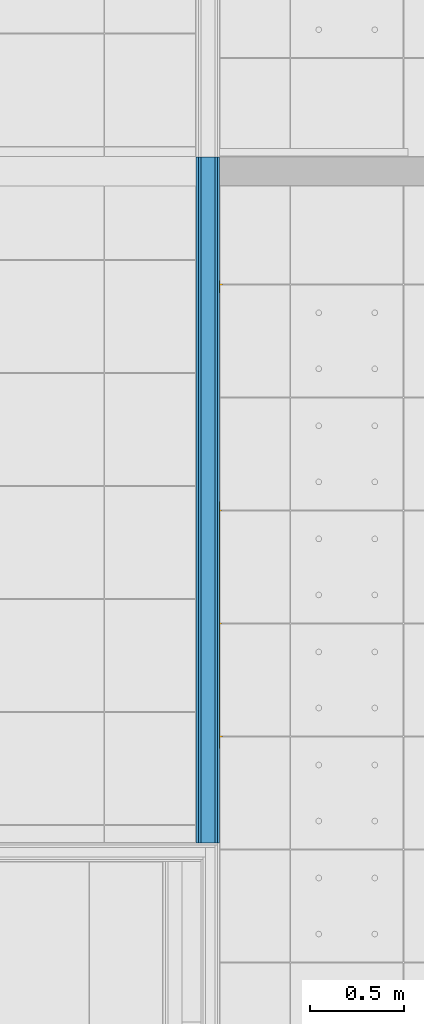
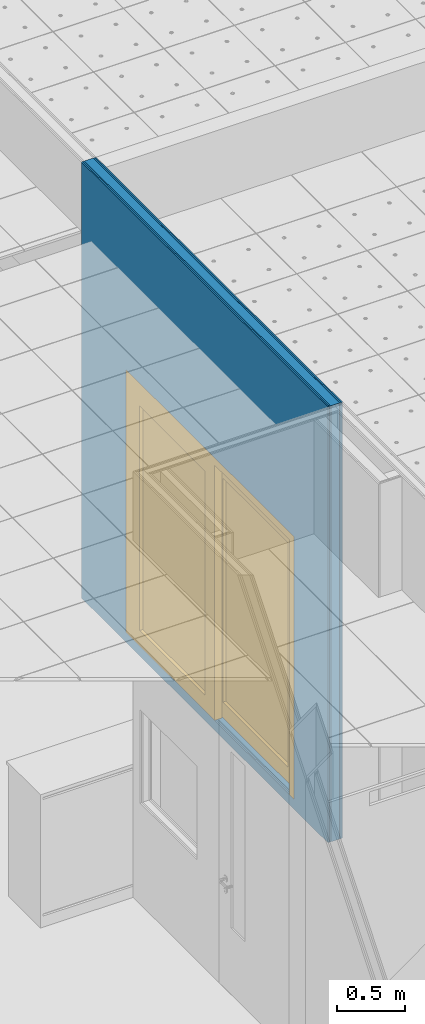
# One storey, part 17 of 321: 5 building element parts, 1 door, 1 opening, 1 element without a shape of its own.
"""IFC2X3 building model written with IfcOpenShell, lengths in millimetres."""

from ifc_helpers import new_model, entity, si_unit, converted_unit, derived_unit, money_unit, direction, frame, origin_with_axes, place, context, subcontext, project, spatial, open_shell, faceted_brep, surface_model, source, transform, mapped, material, type_object, type_shapes, element, fill, aggregate, save


model = new_model("IFC2X3")

# Units and contexts
model_context = context("Model", 3, precision=0.01, world=origin_with_axes(), true_north=direction((0.0, 1.0)))
plan_context = context("Plan", 3, precision=0.01, world=origin_with_axes(), true_north=direction((0.0, 1.0)))
body_context = subcontext(model_context, "Body", "Model", "MODEL_VIEW")
ifc_project = project(units=[si_unit("LENGTHUNIT", "METRE", prefix="MILLI"), si_unit("AREAUNIT", "SQUARE_METRE"), si_unit("VOLUMEUNIT", "CUBIC_METRE"), converted_unit("PLANEANGLEUNIT", "DEGREE", entity("IfcPlaneAngleMeasure", 0.0174532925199), si_unit("PLANEANGLEUNIT", "RADIAN"), dimensions=[0, 0, 0, 0, 0, 0, 0]), money_unit("EUR"), converted_unit("TIMEUNIT", "Year", entity("IfcTimeMeasure", 31556926.0), si_unit("TIMEUNIT", "SECOND"), dimensions=[0, 0, 1, 0, 0, 0, 0]), si_unit("MASSUNIT", "GRAM", prefix="KILO"), si_unit("THERMODYNAMICTEMPERATUREUNIT", "DEGREE_CELSIUS"), si_unit("LUMINOUSINTENSITYUNIT", "LUMEN"), si_unit("ENERGYUNIT", "JOULE", prefix="MEGA"), derived_unit("THERMALCONDUCTANCEUNIT", [(si_unit("POWERUNIT", "WATT"), 1), (si_unit("LENGTHUNIT", "METRE"), -1), (si_unit("THERMODYNAMICTEMPERATUREUNIT", "KELVIN"), -1)]), derived_unit("SPECIFICHEATCAPACITYUNIT", [(si_unit("ENERGYUNIT", "JOULE"), 1), (si_unit("MASSUNIT", "GRAM", prefix="KILO"), -1), (si_unit("THERMODYNAMICTEMPERATUREUNIT", "KELVIN"), -1)]), derived_unit("MASSDENSITYUNIT", [(si_unit("MASSUNIT", "GRAM", prefix="KILO"), 1), (si_unit("VOLUMEUNIT", "CUBIC_METRE"), -1)])], contexts=[model_context, plan_context])

# Site, building, storey
site_placement = place(None, origin_with_axes())
site = spatial("IfcSite", under=ifc_project, at=site_placement, Name="Fortuinstraat Woensdrecht", CompositionType="ELEMENT")
building_placement = place(site_placement, origin_with_axes())
building = spatial("IfcBuilding", under=site, at=building_placement, Name="IKC Fortuna", CompositionType="ELEMENT")
storey_placement = place(building_placement, frame((0.0, 0.0, 4000.0), z_axis=(0.0, 0.0, 1.0), x_axis=(1.0, 0.0, 0.0)))
storey = spatial("IfcBuildingStorey", under=building, at=storey_placement, Name="01 eerste verdieping", CompositionType="ELEMENT", Elevation=4000.0)

# Door
door_style = type_object("IfcDoorStyle", Name="DSn 25", ConstructionType="NOTDEFINED", OperationType="USERDEFINED", ParameterTakesPrecedence=False, Sizeable=False)
shared_shape = source(origin_with_axes(), body_context, "Body", "SurfaceModel", [
    faceted_brep([(-1242.5, 0.0, 0.0), (-1175.5, 0.0, 0.0), (-1175.5, -139.0, 0.0), (-1242.5, -139.0, 0.0), (-1242.5, 0.0, 2300.0), (-1175.5, 0.0, 2300.0), (-1175.5, -139.0, 2300.0), (-1242.5, -139.0, 2300.0)], [[[0, 1, 2, 3]], [[0, 4, 5, 1]], [[1, 5, 6, 2]], [[3, 2, 6, 7]], [[4, 0, 3, 7]], [[5, 4, 7, 6]]]),
    faceted_brep([(1242.5, 0.0, 0.0), (1242.5, 0.0, 2300.0), (1242.5, -139.0, 2300.0), (1242.5, -139.0, 0.0), (1175.5, 0.0, 0.0), (1175.5, 0.0, 2300.0), (1175.5, -139.0, 2300.0), (1175.5, -139.0, 0.0)], [[[0, 1, 2, 3]], [[0, 4, 5, 1]], [[1, 5, 6, 2]], [[3, 2, 6, 7]], [[4, 0, 3, 7]], [[5, 4, 7, 6]]]),
    faceted_brep([(-1242.5, 0.0, 2367.0), (-1242.5, 0.0, 2300.0), (-1242.5, -139.0, 2300.0), (-1242.5, -139.0, 2367.0), (1242.5, 0.0, 2367.0), (1242.5, 0.0, 2300.0), (1175.5, 0.0, 2300.0), (-1175.5, 0.0, 2300.0), (-1175.5, -139.0, 2300.0), (1175.5, -139.0, 2300.0), (1242.5, -139.0, 2300.0), (1242.5, -139.0, 2367.0)], [[[0, 1, 2, 3]], [[0, 4, 5, 6, 7, 1]], [[1, 7, 8, 2]], [[3, 2, 8, 9, 10, 11]], [[4, 0, 3, 11]], [[5, 4, 11, 10]], [[6, 5, 10, 9]], [[7, 6, 9, 8]]]),
    faceted_brep([(1175.5, 0.0, 139.0), (1175.5, -64.5, 139.0), (1036.5, -64.5, 139.0), (1036.5, 0.0, 139.0), (1175.5, 0.0, 2161.0), (1175.5, -64.5, 2161.0), (1036.5, -64.5, 2161.0), (1036.5, 0.0, 2161.0)], [[[0, 1, 2, 3]], [[4, 5, 1, 0]], [[1, 5, 6, 2]], [[3, 2, 6, 7]], [[0, 3, 7, 4]], [[7, 6, 5, 4]]]),
    faceted_brep([(-69.5, 0.0, 139.0), (-69.5, -64.5, 139.0), (-69.5, -64.5, 2161.0), (-69.5, 0.0, 2161.0), (69.5, 0.0, 139.0), (69.5, -64.5, 139.0), (69.5, -64.5, 2161.0), (69.5, 0.0, 2161.0)], [[[0, 1, 2, 3]], [[4, 5, 1, 0]], [[1, 5, 6, 2]], [[3, 2, 6, 7]], [[0, 3, 7, 4]], [[7, 6, 5, 4]]]),
    faceted_brep([(1175.5, 0.0, 0.0), (1175.5, -64.5, 0.0), (-69.5, -64.5, 0.0), (-69.5, 0.0, 0.0), (1175.5, 0.0, 139.0), (1175.5, -64.5, 139.0), (1036.5, -64.5, 139.0), (69.5, -64.5, 139.0), (-69.5, -64.5, 139.0), (-69.5, 0.0, 139.0), (69.5, 0.0, 139.0), (1036.5, 0.0, 139.0)], [[[0, 1, 2, 3]], [[4, 5, 1, 0]], [[1, 5, 6, 7, 8, 2]], [[3, 2, 8, 9]], [[0, 3, 9, 10, 11, 4]], [[11, 6, 5, 4]], [[10, 7, 6, 11]], [[9, 8, 7, 10]]]),
    faceted_brep([(1175.5, 0.0, 2300.0), (1175.5, -64.5, 2300.0), (1175.5, -64.5, 2161.0), (1175.5, 0.0, 2161.0), (-69.5, 0.0, 2300.0), (-69.5, -64.5, 2300.0), (-69.5, -64.5, 2161.0), (69.5, -64.5, 2161.0), (1036.5, -64.5, 2161.0), (1036.5, 0.0, 2161.0), (69.5, 0.0, 2161.0), (-69.5, 0.0, 2161.0)], [[[0, 1, 2, 3]], [[4, 5, 1, 0]], [[1, 5, 6, 7, 8, 2]], [[3, 2, 8, 9]], [[0, 3, 9, 10, 11, 4]], [[11, 6, 5, 4]], [[10, 7, 6, 11]], [[9, 8, 7, 10]]]),
    surface_model("IfcShellBasedSurfaceModel", [(1036.5, -26.25, 139.0), (69.5, -26.25, 139.0), (69.5, -26.25, 2161.0), (1036.5, -26.25, 2161.0)], [open_shell([[[0, 1, 2, 3]]])]),
    surface_model("IfcShellBasedSurfaceModel", [(1036.5, -38.25, 139.0), (1036.5, -38.25, 2161.0), (69.5, -38.25, 2161.0), (69.5, -38.25, 139.0)], [open_shell([[[0, 1, 2, 3]]])]),
    faceted_brep([(-1110.5, -134.0, 965.0), (-1110.5, -134.0, 1035.0), (-1110.5, -144.0, 1035.0), (-1110.5, -144.0, 965.0), (-1140.5, -134.0, 965.0), (-1140.5, -134.0, 1035.0), (-1140.5, -144.0, 1035.0), (-1140.5, -144.0, 965.0)], [[[0, 1, 2, 3]], [[0, 4, 5, 1]], [[1, 5, 6, 2]], [[3, 2, 6, 7]], [[4, 0, 3, 7]], [[5, 4, 7, 6]]]),
    faceted_brep([(-1124.13436775, -144.0, 1006.86549696), (-1122.82121597, -144.0, 1006.46715673), (-1121.61100837, -144.0, 1005.82028729), (-1120.55025253, -144.0, 1004.94974747), (-1119.67971271, -144.0, 1003.88899163), (-1119.03284327, -144.0, 1002.67878403), (-1118.63450304, -144.0, 1001.36563225), (-1118.5, -144.0, 1000.0), (-1118.63450304, -144.0, 998.634367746), (-1119.03284327, -144.0, 997.321215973), (-1119.67971271, -144.0, 996.111008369), (-1120.55025253, -144.0, 995.050252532), (-1121.61100837, -144.0, 994.179712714), (-1122.82121597, -144.0, 993.532843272), (-1124.13436775, -144.0, 993.134503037), (-1125.5, -144.0, 993.0), (-1126.86563225, -144.0, 993.134503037), (-1128.17878403, -144.0, 993.532843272), (-1129.38899163, -144.0, 994.179712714), (-1130.44974747, -144.0, 995.050252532), (-1131.32028729, -144.0, 996.111008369), (-1131.96715673, -144.0, 997.321215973), (-1132.36549696, -144.0, 998.634367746), (-1132.5, -144.0, 1000.0), (-1132.36549696, -144.0, 1001.36563225), (-1131.96715673, -144.0, 1002.67878403), (-1131.32028729, -144.0, 1003.88899163), (-1130.44974747, -144.0, 1004.94974747), (-1129.38899163, -144.0, 1005.82028729), (-1128.17878403, -144.0, 1006.46715673), (-1126.86563225, -144.0, 1006.86549696), (-1125.5, -144.0, 1007.0), (-1124.13436775, -159.0, 1006.86549696), (-1122.82121597, -159.0, 1006.46715673), (-1121.61100837, -159.0, 1005.82028729), (-1120.55025253, -159.0, 1004.94974747), (-1119.67971271, -159.0, 1003.88899163), (-1119.03284327, -159.0, 1002.67878403), (-1118.63450304, -159.0, 1001.36563225), (-1118.5, -159.0, 1000.0), (-1118.63450304, -159.0, 998.634367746), (-1119.03284327, -159.0, 997.321215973), (-1119.67971271, -159.0, 996.111008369), (-1120.55025253, -159.0, 995.050252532), (-1121.61100837, -159.0, 994.179712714), (-1122.82121597, -159.0, 993.532843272), (-1124.13436775, -159.0, 993.134503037), (-1125.5, -159.0, 993.0), (-1126.86563225, -159.0, 993.134503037), (-1128.17878403, -159.0, 993.532843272), (-1129.38899163, -159.0, 994.179712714), (-1130.44974747, -159.0, 995.050252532), (-1131.32028729, -159.0, 996.111008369), (-1131.96715673, -159.0, 997.321215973), (-1132.36549696, -159.0, 998.634367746), (-1132.5, -159.0, 1000.0), (-1132.36549696, -159.0, 1001.36563225), (-1131.96715673, -159.0, 1002.67878403), (-1131.32028729, -159.0, 1003.88899163), (-1130.44974747, -159.0, 1004.94974747), (-1129.38899163, -159.0, 1005.82028729), (-1128.17878403, -159.0, 1006.46715673), (-1126.86563225, -159.0, 1006.86549696), (-1125.5, -159.0, 1007.0)], [[[0, 1, 2, 3, 4, 5, 6, 7, 8, 9, 10, 11, 12, 13, 14, 15, 16, 17, 18, 19, 20, 21, 22, 23, 24, 25, 26, 27, 28, 29, 30, 31]], [[1, 0, 32, 33]], [[2, 1, 33, 34]], [[3, 2, 34, 35]], [[4, 3, 35, 36]], [[5, 4, 36, 37]], [[6, 5, 37, 38]], [[7, 6, 38, 39]], [[8, 7, 39, 40]], [[9, 8, 40, 41]], [[10, 9, 41, 42]], [[11, 10, 42, 43]], [[12, 11, 43, 44]], [[13, 12, 44, 45]], [[14, 13, 45, 46]], [[15, 14, 46, 47]], [[16, 15, 47, 48]], [[17, 16, 48, 49]], [[18, 17, 49, 50]], [[19, 18, 50, 51]], [[20, 19, 51, 52]], [[21, 20, 52, 53]], [[22, 21, 53, 54]], [[23, 22, 54, 55]], [[24, 23, 55, 56]], [[25, 24, 56, 57]], [[26, 25, 57, 58]], [[27, 26, 58, 59]], [[28, 27, 59, 60]], [[29, 28, 60, 61]], [[30, 29, 61, 62]], [[31, 30, 62, 63]], [[0, 31, 63, 32]], [[32, 63, 62, 61, 60, 59, 58, 57, 56, 55, 54, 53, 52, 51, 50, 49, 48, 47, 46, 45, 44, 43, 42, 41, 40, 39, 38, 37, 36, 35, 34, 33]]]),
    faceted_brep([(-1115.5, -159.0, 990.0), (-1115.5, -159.0, 1010.0), (-1115.5, -169.0, 1010.0), (-1115.5, -169.0, 990.0), (-1135.5, -159.0, 990.0), (-1135.5, -159.0, 1010.0), (-1135.5, -169.0, 1010.0), (-1135.5, -169.0, 990.0)], [[[0, 1, 2, 3]], [[0, 4, 5, 1]], [[1, 5, 6, 2]], [[3, 2, 6, 7]], [[4, 0, 3, 7]], [[5, 4, 7, 6]]]),
    faceted_brep([(-1115.5, -169.0, 990.0), (-1135.5, -169.0, 990.0), (-1130.5, -167.0, 965.0), (-1120.5, -167.0, 965.0), (-1115.5, -159.0, 990.0), (-1135.5, -159.0, 990.0), (-1130.5, -163.0, 965.0), (-1120.5, -163.0, 965.0)], [[[0, 1, 2, 3]], [[0, 4, 5, 1]], [[1, 5, 6, 2]], [[3, 2, 6, 7]], [[4, 0, 3, 7]], [[5, 4, 7, 6]]]),
    faceted_brep([(-1115.5, -169.0, 1010.0), (-1120.5, -167.0, 1035.0), (-1130.5, -167.0, 1035.0), (-1135.5, -169.0, 1010.0), (-1115.5, -159.0, 1010.0), (-1120.5, -163.0, 1035.0), (-1130.5, -163.0, 1035.0), (-1135.5, -159.0, 1010.0)], [[[0, 1, 2, 3]], [[4, 5, 1, 0]], [[1, 5, 6, 2]], [[3, 2, 6, 7]], [[0, 3, 7, 4]], [[7, 6, 5, 4]]]),
    faceted_brep([(-1110.5, -69.5, 965.0), (-1110.5, -59.5, 965.0), (-1110.5, -59.5, 1035.0), (-1110.5, -69.5, 1035.0), (-1140.5, -69.5, 965.0), (-1140.5, -59.5, 965.0), (-1140.5, -59.5, 1035.0), (-1140.5, -69.5, 1035.0)], [[[0, 1, 2, 3]], [[4, 5, 1, 0]], [[1, 5, 6, 2]], [[3, 2, 6, 7]], [[0, 3, 7, 4]], [[7, 6, 5, 4]]]),
    faceted_brep([(-1124.13436775, -59.5, 1006.86549696), (-1125.5, -59.5, 1007.0), (-1126.86563225, -59.5, 1006.86549696), (-1128.17878403, -59.5, 1006.46715673), (-1129.38899163, -59.5, 1005.82028729), (-1130.44974747, -59.5, 1004.94974747), (-1131.32028729, -59.5, 1003.88899163), (-1131.96715673, -59.5, 1002.67878403), (-1132.36549696, -59.5, 1001.36563225), (-1132.5, -59.5, 1000.0), (-1132.36549696, -59.5, 998.634367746), (-1131.96715673, -59.5, 997.321215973), (-1131.32028729, -59.5, 996.111008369), (-1130.44974747, -59.5, 995.050252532), (-1129.38899163, -59.5, 994.179712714), (-1128.17878403, -59.5, 993.532843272), (-1126.86563225, -59.5, 993.134503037), (-1125.5, -59.5, 993.0), (-1124.13436775, -59.5, 993.134503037), (-1122.82121597, -59.5, 993.532843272), (-1121.61100837, -59.5, 994.179712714), (-1120.55025253, -59.5, 995.050252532), (-1119.67971271, -59.5, 996.111008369), (-1119.03284327, -59.5, 997.321215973), (-1118.63450304, -59.5, 998.634367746), (-1118.5, -59.5, 1000.0), (-1118.63450304, -59.5, 1001.36563225), (-1119.03284327, -59.5, 1002.67878403), (-1119.67971271, -59.5, 1003.88899163), (-1120.55025253, -59.5, 1004.94974747), (-1121.61100837, -59.5, 1005.82028729), (-1122.82121597, -59.5, 1006.46715673), (-1124.13436775, -44.5, 1006.86549696), (-1125.5, -44.5, 1007.0), (-1126.86563225, -44.5, 1006.86549696), (-1128.17878403, -44.5, 1006.46715673), (-1129.38899163, -44.5, 1005.82028729), (-1130.44974747, -44.5, 1004.94974747), (-1131.32028729, -44.5, 1003.88899163), (-1131.96715673, -44.5, 1002.67878403), (-1132.36549696, -44.5, 1001.36563225), (-1132.5, -44.5, 1000.0), (-1132.36549696, -44.5, 998.634367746), (-1131.96715673, -44.5, 997.321215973), (-1131.32028729, -44.5, 996.111008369), (-1130.44974747, -44.5, 995.050252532), (-1129.38899163, -44.5, 994.179712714), (-1128.17878403, -44.5, 993.532843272), (-1126.86563225, -44.5, 993.134503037), (-1125.5, -44.5, 993.0), (-1124.13436775, -44.5, 993.134503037), (-1122.82121597, -44.5, 993.532843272), (-1121.61100837, -44.5, 994.179712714), (-1120.55025253, -44.5, 995.050252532), (-1119.67971271, -44.5, 996.111008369), (-1119.03284327, -44.5, 997.321215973), (-1118.63450304, -44.5, 998.634367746), (-1118.5, -44.5, 1000.0), (-1118.63450304, -44.5, 1001.36563225), (-1119.03284327, -44.5, 1002.67878403), (-1119.67971271, -44.5, 1003.88899163), (-1120.55025253, -44.5, 1004.94974747), (-1121.61100837, -44.5, 1005.82028729), (-1122.82121597, -44.5, 1006.46715673)], [[[0, 1, 2, 3, 4, 5, 6, 7, 8, 9, 10, 11, 12, 13, 14, 15, 16, 17, 18, 19, 20, 21, 22, 23, 24, 25, 26, 27, 28, 29, 30, 31]], [[0, 32, 33, 1]], [[1, 33, 34, 2]], [[2, 34, 35, 3]], [[3, 35, 36, 4]], [[4, 36, 37, 5]], [[5, 37, 38, 6]], [[6, 38, 39, 7]], [[7, 39, 40, 8]], [[8, 40, 41, 9]], [[9, 41, 42, 10]], [[10, 42, 43, 11]], [[11, 43, 44, 12]], [[12, 44, 45, 13]], [[13, 45, 46, 14]], [[14, 46, 47, 15]], [[15, 47, 48, 16]], [[16, 48, 49, 17]], [[17, 49, 50, 18]], [[18, 50, 51, 19]], [[19, 51, 52, 20]], [[20, 52, 53, 21]], [[21, 53, 54, 22]], [[22, 54, 55, 23]], [[23, 55, 56, 24]], [[24, 56, 57, 25]], [[25, 57, 58, 26]], [[26, 58, 59, 27]], [[27, 59, 60, 28]], [[28, 60, 61, 29]], [[29, 61, 62, 30]], [[30, 62, 63, 31]], [[31, 63, 32, 0]], [[32, 63, 62, 61, 60, 59, 58, 57, 56, 55, 54, 53, 52, 51, 50, 49, 48, 47, 46, 45, 44, 43, 42, 41, 40, 39, 38, 37, 36, 35, 34, 33]]]),
    faceted_brep([(-1115.5, -44.5, 990.0), (-1115.5, -34.5, 990.0), (-1115.5, -34.5, 1010.0), (-1115.5, -44.5, 1010.0), (-1135.5, -44.5, 990.0), (-1135.5, -34.5, 990.0), (-1135.5, -34.5, 1010.0), (-1135.5, -44.5, 1010.0)], [[[0, 1, 2, 3]], [[4, 5, 1, 0]], [[1, 5, 6, 2]], [[3, 2, 6, 7]], [[0, 3, 7, 4]], [[7, 6, 5, 4]]]),
    faceted_brep([(-1115.5, -34.5, 990.0), (-1120.5, -36.5, 965.0), (-1130.5, -36.5, 965.0), (-1135.5, -34.5, 990.0), (-1115.5, -44.5, 990.0), (-1120.5, -40.5, 965.0), (-1130.5, -40.5, 965.0), (-1135.5, -44.5, 990.0)], [[[0, 1, 2, 3]], [[4, 5, 1, 0]], [[1, 5, 6, 2]], [[3, 2, 6, 7]], [[0, 3, 7, 4]], [[7, 6, 5, 4]]]),
    faceted_brep([(-1115.5, -34.5, 1010.0), (-1135.5, -34.5, 1010.0), (-1130.5, -36.5, 1035.0), (-1120.5, -36.5, 1035.0), (-1115.5, -44.5, 1010.0), (-1135.5, -44.5, 1010.0), (-1130.5, -40.5, 1035.0), (-1120.5, -40.5, 1035.0)], [[[0, 1, 2, 3]], [[0, 4, 5, 1]], [[1, 5, 6, 2]], [[3, 2, 6, 7]], [[4, 0, 3, 7]], [[5, 4, 7, 6]]]),
    faceted_brep([(69.5, -69.5, 139.0), (69.5, -134.0, 139.0), (-69.5, -134.0, 139.0), (-69.5, -69.5, 139.0), (69.5, -69.5, 2161.0), (69.5, -134.0, 2161.0), (-69.5, -134.0, 2161.0), (-69.5, -69.5, 2161.0)], [[[0, 1, 2, 3]], [[4, 5, 1, 0]], [[1, 5, 6, 2]], [[3, 2, 6, 7]], [[0, 3, 7, 4]], [[7, 6, 5, 4]]]),
    faceted_brep([(-1175.5, -69.5, 139.0), (-1175.5, -134.0, 139.0), (-1175.5, -134.0, 2161.0), (-1175.5, -69.5, 2161.0), (-1036.5, -69.5, 139.0), (-1036.5, -134.0, 139.0), (-1036.5, -134.0, 2161.0), (-1036.5, -69.5, 2161.0)], [[[0, 1, 2, 3]], [[4, 5, 1, 0]], [[1, 5, 6, 2]], [[3, 2, 6, 7]], [[0, 3, 7, 4]], [[7, 6, 5, 4]]]),
    faceted_brep([(69.5, -69.5, 0.0), (69.5, -134.0, 0.0), (-1175.5, -134.0, 0.0), (-1175.5, -69.5, 0.0), (69.5, -69.5, 139.0), (69.5, -134.0, 139.0), (-69.5, -134.0, 139.0), (-1036.5, -134.0, 139.0), (-1175.5, -134.0, 139.0), (-1175.5, -69.5, 139.0), (-1036.5, -69.5, 139.0), (-69.5, -69.5, 139.0)], [[[0, 1, 2, 3]], [[4, 5, 1, 0]], [[1, 5, 6, 7, 8, 2]], [[3, 2, 8, 9]], [[0, 3, 9, 10, 11, 4]], [[11, 6, 5, 4]], [[10, 7, 6, 11]], [[9, 8, 7, 10]]]),
    faceted_brep([(69.5, -69.5, 2300.0), (69.5, -134.0, 2300.0), (69.5, -134.0, 2161.0), (69.5, -69.5, 2161.0), (-1175.5, -69.5, 2300.0), (-1175.5, -134.0, 2300.0), (-1175.5, -134.0, 2161.0), (-1036.5, -134.0, 2161.0), (-69.5, -134.0, 2161.0), (-69.5, -69.5, 2161.0), (-1036.5, -69.5, 2161.0), (-1175.5, -69.5, 2161.0)], [[[0, 1, 2, 3]], [[4, 5, 1, 0]], [[1, 5, 6, 7, 8, 2]], [[3, 2, 8, 9]], [[0, 3, 9, 10, 11, 4]], [[11, 6, 5, 4]], [[10, 7, 6, 11]], [[9, 8, 7, 10]]]),
    surface_model("IfcShellBasedSurfaceModel", [(-69.5, -95.75, 139.0), (-1036.5, -95.75, 139.0), (-1036.5, -95.75, 2161.0), (-69.5, -95.75, 2161.0)], [open_shell([[[0, 1, 2, 3]]])]),
    surface_model("IfcShellBasedSurfaceModel", [(-69.5, -107.75, 139.0), (-69.5, -107.75, 2161.0), (-1036.5, -107.75, 2161.0), (-1036.5, -107.75, 139.0)], [open_shell([[[0, 1, 2, 3]]])]),
])
type_shapes(door_style, [shared_shape])
wall_placement = place(storey_placement, frame((27219.9875502, 6145.666178, -90.0), z_axis=(0.0, 0.0, 1.0), x_axis=(0.0, 1.0, 0.0)))
opening_placement = place(wall_placement, frame((1742.5, 0.0, 90.0), z_axis=(0.0, 0.0, 1.0), x_axis=(1.0, 0.0, 0.0)))
door_placement = place(opening_placement, frame((-1242.5, 0.0, 0.0), z_axis=(0.0, 0.0, 1.0), x_axis=(1.0, 0.0, 0.0)))
door = element("IfcDoor", 1, at=door_placement, inside=storey, type_object=door_style, Name="32_Deur_h.03", ObjectType="DOOR", OverallHeight=2367.0, OverallWidth=2485.0, context=body_context, shape_type="MappedRepresentation", body=[
    mapped(shared_shape, transform((1242.5, 62.5, 0.0))),
])

# Wall, opening
wall_type = type_object("IfcWallType", Name="MS125 2.75.2A 125", PredefinedType="NOTDEFINED")
wall = element("IfcWall", 2, at=wall_placement, inside=storey, type_object=wall_type, Name="22_Wand_Binnenwand")
opening = element("IfcOpeningElement", 3, at=opening_placement, cuts=wall, Name="32_Deur_h.03", context=body_context, shape_type="Brep", body=[
    faceted_brep([(1242.5, -125.0, 2367.0), (1242.5, -125.0, 0.0), (1242.5, 250.0, 0.0), (1242.5, 250.0, 2367.0), (-1242.5, -125.0, 2367.0), (-1242.5, -125.0, 0.0), (-1242.5, 250.0, 0.0), (-1242.5, 250.0, 2367.0)], [[[0, 1, 2, 3]], [[0, 4, 5, 1]], [[1, 5, 6, 2]], [[3, 2, 6, 7]], [[4, 0, 3, 7]], [[5, 4, 7, 6]]]),
])

fill(opening, door)

# Building element part
ifc_material_1 = material(Name="Gipsplaat")
building_element_part_1_placement = place(wall_placement, origin_with_axes())
building_element_part_1 = element("IfcBuildingElementPart", 4, at=building_element_part_1_placement, material=ifc_material_1, Name="Gipsplaat", context=body_context, shape_type="Brep", body=[
    faceted_brep([(3639.44087964, 62.5, 0.0), (0.0, 62.5, 0.0), (0.0, 62.5, 3930.0), (3639.44087964, 62.5, 3930.0), (500.0, 62.5, 90.0), (2985.0, 62.5, 90.0), (2985.0, 62.5, 2457.0), (500.0, 62.5, 2457.0), (3639.44087964, 50.0, 0.0), (0.0, 50.0, 0.0), (0.0, 50.0, 3930.0), (3639.44087964, 50.0, 3930.0), (500.0, 50.0, 90.0), (2985.0, 50.0, 90.0), (2985.0, 50.0, 2457.0), (500.0, 50.0, 2457.0)], [[[0, 1, 2, 3], [4, 5, 6, 7]], [[8, 9, 1, 0]], [[2, 1, 9, 10]], [[3, 2, 10, 11]], [[8, 0, 3, 11]], [[12, 13, 5, 4]], [[13, 14, 6, 5]], [[14, 15, 7, 6]], [[15, 12, 4, 7]], [[11, 10, 9, 8], [12, 15, 14, 13]]]),
])

building_element_part_2_placement = place(wall_placement, origin_with_axes())
building_element_part_2 = element("IfcBuildingElementPart", 5, at=building_element_part_2_placement, material=ifc_material_1, Name="Gipsplaat", context=body_context, shape_type="Brep", body=[
    faceted_brep([(3639.44087964, 50.0, 0.0), (0.0, 50.0, 0.0), (0.0, 50.0, 3930.0), (3639.44087964, 50.0, 3930.0), (500.0, 50.0, 90.0), (2985.0, 50.0, 90.0), (2985.0, 50.0, 2457.0), (500.0, 50.0, 2457.0), (3639.44087964, 37.5, 0.0), (0.0, 37.5, 0.0), (0.0, 37.5, 3930.0), (3639.44087964, 37.5, 3930.0), (500.0, 37.5, 90.0), (2985.0, 37.5, 90.0), (2985.0, 37.5, 2457.0), (500.0, 37.5, 2457.0)], [[[0, 1, 2, 3], [4, 5, 6, 7]], [[8, 9, 1, 0]], [[2, 1, 9, 10]], [[3, 2, 10, 11]], [[8, 0, 3, 11]], [[12, 13, 5, 4]], [[13, 14, 6, 5]], [[14, 15, 7, 6]], [[15, 12, 4, 7]], [[11, 10, 9, 8], [12, 15, 14, 13]]]),
])

ifc_material_2 = material(Name="Isolatie - Steenwol LSW")
building_element_part_3_placement = place(wall_placement, origin_with_axes())
building_element_part_3 = element("IfcBuildingElementPart", 6, at=building_element_part_3_placement, material=ifc_material_2, Name="Isolatie - Steenwol LSW", context=body_context, shape_type="Brep", body=[
    faceted_brep([(3639.44087964, 37.5, 0.0), (0.0, 37.5, 0.0), (0.0, 37.5, 3930.0), (3639.44087964, 37.5, 3930.0), (500.0, 37.5, 90.0), (2985.0, 37.5, 90.0), (2985.0, 37.5, 2457.0), (500.0, 37.5, 2457.0), (3639.44087964, -37.5, 0.0), (0.0, -37.5, 0.0), (0.0, -37.5, 3930.0), (3639.44087964, -37.5, 3930.0), (500.0, -37.5, 90.0), (2985.0, -37.5, 90.0), (2985.0, -37.5, 2457.0), (500.0, -37.5, 2457.0)], [[[0, 1, 2, 3], [4, 5, 6, 7]], [[8, 9, 1, 0]], [[2, 1, 9, 10]], [[3, 2, 10, 11]], [[8, 0, 3, 11]], [[12, 13, 5, 4]], [[13, 14, 6, 5]], [[14, 15, 7, 6]], [[15, 12, 4, 7]], [[11, 10, 9, 8], [12, 15, 14, 13]]]),
])

building_element_part_4_placement = place(wall_placement, origin_with_axes())
building_element_part_4 = element("IfcBuildingElementPart", 7, at=building_element_part_4_placement, material=ifc_material_1, Name="Gipsplaat", context=body_context, shape_type="Brep", body=[
    faceted_brep([(3639.44087964, -37.5, 0.0), (0.0, -37.5, 0.0), (0.0, -37.5, 3930.0), (3639.44087964, -37.5, 3930.0), (500.0, -37.5, 90.0), (2985.0, -37.5, 90.0), (2985.0, -37.5, 2457.0), (500.0, -37.5, 2457.0), (3639.44087964, -50.0, 0.0), (0.0, -50.0, 0.0), (0.0, -50.0, 3930.0), (3639.44087964, -50.0, 3930.0), (500.0, -50.0, 90.0), (2985.0, -50.0, 90.0), (2985.0, -50.0, 2457.0), (500.0, -50.0, 2457.0)], [[[0, 1, 2, 3], [4, 5, 6, 7]], [[8, 9, 1, 0]], [[2, 1, 9, 10]], [[3, 2, 10, 11]], [[8, 0, 3, 11]], [[12, 13, 5, 4]], [[13, 14, 6, 5]], [[14, 15, 7, 6]], [[15, 12, 4, 7]], [[11, 10, 9, 8], [12, 15, 14, 13]]]),
])

building_element_part_5_placement = place(wall_placement, origin_with_axes())
building_element_part_5 = element("IfcBuildingElementPart", 8, at=building_element_part_5_placement, material=ifc_material_1, Name="Gipsplaat", context=body_context, shape_type="Brep", body=[
    faceted_brep([(3639.44087964, -50.0, 0.0), (0.0, -50.0, 0.0), (0.0, -50.0, 3930.0), (3639.44087964, -50.0, 3930.0), (500.0, -50.0, 90.0), (2985.0, -50.0, 90.0), (2985.0, -50.0, 2457.0), (500.0, -50.0, 2457.0), (3639.44087964, -62.5, 0.0), (0.0, -62.5, 0.0), (0.0, -62.5, 3930.0), (3639.44087964, -62.5, 3930.0), (500.0, -62.5, 90.0), (2985.0, -62.5, 90.0), (2985.0, -62.5, 2457.0), (500.0, -62.5, 2457.0)], [[[0, 1, 2, 3], [4, 5, 6, 7]], [[8, 9, 1, 0]], [[2, 1, 9, 10]], [[3, 2, 10, 11]], [[8, 0, 3, 11]], [[12, 13, 5, 4]], [[13, 14, 6, 5]], [[14, 15, 7, 6]], [[15, 12, 4, 7]], [[11, 10, 9, 8], [12, 15, 14, 13]]]),
])

aggregate(wall, [building_element_part_1, building_element_part_2, building_element_part_3, building_element_part_4, building_element_part_5])

save(model, "model.ifc")
